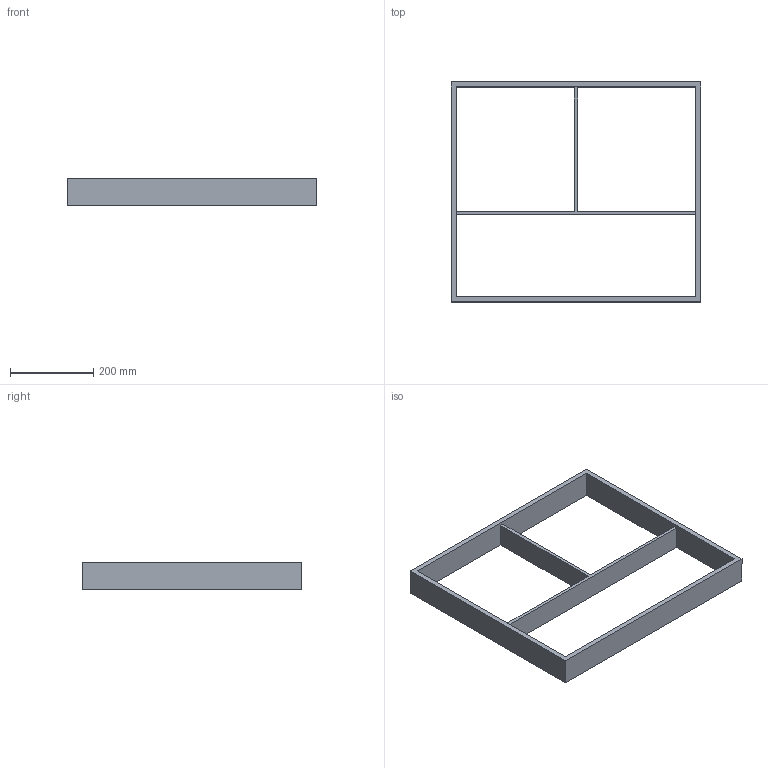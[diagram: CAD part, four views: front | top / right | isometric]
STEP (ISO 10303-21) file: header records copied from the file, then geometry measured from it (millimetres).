
FILE_DESCRIPTION (( 'STEP AP214' ), '1' );
FILE_NAME ('Vario Multi NL550_ZE600_16 mm_Alu.step', '2010-10-07T06:24:36', ( 'grass' ), ( '' ), 'SwSTEP 2.0', 'SolidWorks 2010', '' );
FILE_SCHEMA (( 'AUTOMOTIVE_DESIGN' ));
Length unit declared in the file: millimetre
Products named in the file (1): Vario Multi NL550_ZE600_16 mm_Alu
Bounding box: 600 x 529 x 65 mm (x, y, z)
Volume: 2122708.8 mm3; surface area: 452240 mm2
Topology: 1 solids, 1 shells, 16 faces, 48 edges, 32 vertices
Faces by surface type: plane 16
Entity records: 578 total; most frequent: CARTESIAN_POINT 97, ORIENTED_EDGE 96, DIRECTION 82, EDGE_CURVE 48, VECTOR 48, LINE 48, VERTEX_POINT 32, EDGE_LOOP 20
